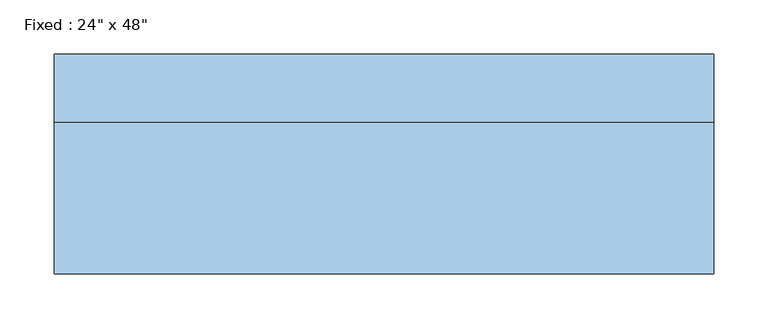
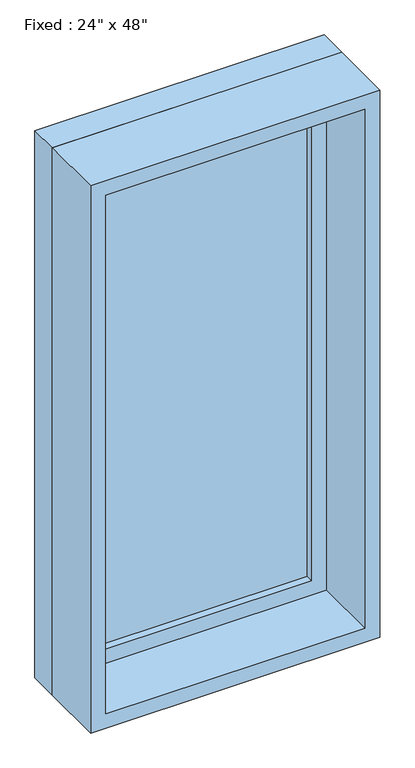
"""IFC4 building model written with IfcOpenShell, lengths in millimetres: window geometry."""

import ifcopenshell
import ifcopenshell.guid

model = None  # the IFC model being written
_history = None  # IfcOwnerHistory: only IFC2X3 demands one
_inside = {}  # id of a spatial element -> (the spatial element, [elements in it])
_under = {}  # id of a project, library or spatial element -> (it, [spatial elements below it])
_declared = {}  # id of a project -> (the project, [libraries it declares])
_typed = {}  # id of a type object -> (the type object, [elements of that type])
_made_of = {}  # id of a material, layer set ... -> (it, [elements and type objects made of it])


def new_model(schema):
    """Start an empty IFC model of exactly this schema.

    Asked for "IFC4X3", IfcOpenShell would pick the latest addendum, in which some entities
    have other attributes; the version numbers below select the first issue.
    IFC2X3 requires an IfcOwnerHistory on every rooted entity: one is made here for all.
    """
    global model, _history
    if schema == "IFC4X3":
        model = ifcopenshell.file(schema_version=(4, 3, 0, 0))
    else:
        model = ifcopenshell.file(schema=schema)
    _inside.clear()
    _under.clear()
    _declared.clear()
    _typed.clear()
    _made_of.clear()
    _history = None
    if model.schema == "IFC2X3":
        org = make("IfcOrganization", Name="unknown")
        user = make(
            "IfcPersonAndOrganization",
            ThePerson=make("IfcPerson", FamilyName="unknown"),
            TheOrganization=org,
        )
        app = make(
            "IfcApplication",
            ApplicationDeveloper=org,
            Version="unknown",
            ApplicationFullName="unknown",
            ApplicationIdentifier="unknown",
        )
        _history = make(
            "IfcOwnerHistory",
            OwningUser=user,
            OwningApplication=app,
            ChangeAction="ADDED",
            CreationDate=0,
        )
    return model


def make(cls, **values):
    """One entity of the class cls with the attributes given. An attribute that is None is left unset."""
    return model.create_entity(
        cls, **{name: value for name, value in values.items() if value is not None}
    )


def rooted(cls, **values):
    """An entity with a GlobalId (a new one), such as an element, a storey or a relation."""
    return make(cls, GlobalId=ifcopenshell.guid.new(), OwnerHistory=_history, **values)


def si_unit(unit_type, name, prefix=None):
    """IfcSIUnit, for example si_unit("LENGTHUNIT", "METRE", prefix="MILLI")."""
    return make("IfcSIUnit", UnitType=unit_type, Prefix=prefix, Name=name)


def assignment(units):
    """IfcUnitAssignment: the units of a project."""
    return None if units is None else make("IfcUnitAssignment", Units=units)


def point(xyz):
    """IfcCartesianPoint."""
    return None if xyz is None else make("IfcCartesianPoint", Coordinates=xyz)


def direction(xyz):
    """IfcDirection."""
    return None if xyz is None else make("IfcDirection", DirectionRatios=xyz)


def frame(location, z_axis=None, x_axis=None):
    """IfcAxis2Placement3D, a coordinate frame: its origin and axes. An axis left out is left unset."""
    return make(
        "IfcAxis2Placement3D",
        Location=point(location),
        Axis=direction(z_axis),
        RefDirection=direction(x_axis),
    )


def origin():
    """The frame at (0, 0, 0) with its axes left unset."""
    return frame((0.0, 0.0, 0.0))


def place(relative_to, where):
    """IfcLocalPlacement: puts the frame where relative to a parent placement (None: the world)."""
    return make(
        "IfcLocalPlacement", PlacementRelTo=relative_to, RelativePlacement=where
    )


def context(
    kind, dimensions, precision=None, world=None, true_north=None, identifier=None
):
    """IfcGeometricRepresentationContext, for example the 3D "Model" context."""
    return make(
        "IfcGeometricRepresentationContext",
        ContextIdentifier=identifier,
        ContextType=kind,
        CoordinateSpaceDimension=dimensions,
        Precision=precision,
        WorldCoordinateSystem=world,
        TrueNorth=true_north,
    )


def project(units=None, contexts=None):
    """IfcProject with its units and contexts."""
    return rooted(
        "IfcProject",
        Name="project",
        RepresentationContexts=contexts,
        UnitsInContext=assignment(units),
    )


def spatial(cls, under=None, at=None, **own):
    """A site, building, storey or space (cls), placed at a placement, below another one or the project."""
    s = rooted(cls, ObjectPlacement=at, **own)
    if under is not None:
        _under.setdefault(under.id(), (under, []))[1].append(s)
    return s


def polyline(points):
    """IfcPolyline through the points."""
    return make("IfcPolyline", Points=[point(p) for p in points])


def outline(outer, holes=None, kind="AREA"):
    """IfcArbitraryClosedProfileDef: a profile drawn as a closed curve; with holes, ...WithVoids."""
    if holes is None:
        return make("IfcArbitraryClosedProfileDef", ProfileType=kind, OuterCurve=outer)
    return make(
        "IfcArbitraryProfileDefWithVoids",
        ProfileType=kind,
        OuterCurve=outer,
        InnerCurves=holes,
    )


def extrude(swept, where, along, depth):
    """IfcExtrudedAreaSolid: the profile swept, set in the frame where, extruded along a direction by depth."""
    return make(
        "IfcExtrudedAreaSolid",
        SweptArea=swept,
        Position=where,
        ExtrudedDirection=direction(along),
        Depth=depth,
    )


def shape(context_of_items, identifier, shape_type, items):
    """IfcShapeRepresentation: the items that make up one representation, for example the "Body"."""
    return make(
        "IfcShapeRepresentation",
        ContextOfItems=context_of_items,
        RepresentationIdentifier=identifier,
        RepresentationType=shape_type,
        Items=items,
    )


def source(mapping_origin, context_of_items, identifier, shape_type, items):
    """IfcRepresentationMap: a shape defined once, which mapped items show again and again."""
    return make(
        "IfcRepresentationMap",
        MappingOrigin=mapping_origin,
        MappedRepresentation=shape(context_of_items, identifier, shape_type, items),
    )


def transform(
    local_origin,
    x_axis=None,
    y_axis=None,
    z_axis=None,
    scale=None,
    scale2=None,
    scale3=None,
    uniform=True,
):
    """IfcCartesianTransformationOperator3D, or its non-uniform kind. x_axis, y_axis, z_axis: its Axis1, 2, 3."""
    if uniform:
        return make(
            "IfcCartesianTransformationOperator3D",
            Axis1=direction(x_axis),
            Axis2=direction(y_axis),
            LocalOrigin=point(local_origin),
            Scale=scale,
            Axis3=direction(z_axis),
        )
    return make(
        "IfcCartesianTransformationOperator3DnonUniform",
        Axis1=direction(x_axis),
        Axis2=direction(y_axis),
        LocalOrigin=point(local_origin),
        Scale=scale,
        Axis3=direction(z_axis),
        Scale2=scale2,
        Scale3=scale3,
    )


def mapped(mapping_source, mapping_target):
    """IfcMappedItem: shows the shape of a source again, moved by a transform."""
    return make(
        "IfcMappedItem", MappingSource=mapping_source, MappingTarget=mapping_target
    )


def made_of(thing, what):
    """Note that an element or type object is made of a material, layer set ...; save() writes the relation."""
    if what is not None:
        _made_of.setdefault(what.id(), (what, []))[1].append(thing)
    return thing


def element(
    cls,
    number,
    at=None,
    inside=None,
    cuts=None,
    type_object=None,
    material=None,
    context=None,
    identifier="Body",
    shape_type=None,
    held_by="IfcProductDefinitionShape",
    body=None,
    shapes=None,
    **own,
):
    """One element of the class cls, such as IfcWall. Its Tag is "e" and its number.

    at: its placement. inside: the storey or other place that contains it. cuts: it is an
    opening in that element (IfcRelVoidsElement). A single representation is given by context,
    identifier, shape_type and body (its items); several are given by shapes. held_by: the class
    of the entity that holds the representations. save() writes the other relations.
    """
    e = rooted(cls, Tag="e%d" % number, ObjectPlacement=at, **own)
    if body is not None:
        shapes = [shape(context, identifier, shape_type, body)]
    if shapes is not None:
        e.Representation = make(held_by, Representations=shapes)
    if inside is not None:
        _inside.setdefault(inside.id(), (inside, []))[1].append(e)
    if cuts is not None:
        rooted(
            "IfcRelVoidsElement", RelatingBuildingElement=cuts, RelatedOpeningElement=e
        )
    if type_object is not None:
        _typed.setdefault(type_object.id(), (type_object, []))[1].append(e)
    return made_of(e, material)


def aggregate(whole, parts):
    """IfcRelAggregates: a whole, such as a stair, and the parts it consists of."""
    return rooted("IfcRelAggregates", RelatingObject=whole, RelatedObjects=parts)


def save(model, path):
    """Write the relations noted so far, then the file.

    IfcRelAggregates (storeys below a building ...), IfcRelContainedInSpatialStructure (elements
    in a storey), IfcRelDefinesByType, IfcRelAssociatesMaterial and IfcRelDeclares: one each for
    every whole, place, type object, material and project.
    """
    for whole, parts in _under.values():
        aggregate(whole, parts)
    for where, things in _inside.values():
        rooted(
            "IfcRelContainedInSpatialStructure",
            RelatedElements=things,
            RelatingStructure=where,
        )
    for kind, things in _typed.values():
        rooted("IfcRelDefinesByType", RelatedObjects=things, RelatingType=kind)
    for what, things in _made_of.values():
        rooted("IfcRelAssociatesMaterial", RelatedObjects=things, RelatingMaterial=what)
    for by, libraries in _declared.values():
        rooted("IfcRelDeclares", RelatingContext=by, RelatedDefinitions=libraries)
    model.write(path)


def window_80bd9af0(model_context):
    return source(origin(), model_context, "Body", "SweptSolid", [
        extrude(outline(polyline([(203.2, 53.975), (-279.4, 53.975), (-279.4, 66.675), (203.2, 66.675), (203.2, 53.975)])), frame((0.0, 0.0, 977.9), z_axis=(0.0, 0.0, 1.0), x_axis=(1.0, 0.0, 0.0)), (0.0, 0.0, 1.0), 1092.2),
        extrude(outline(polyline([(2114.55, -323.85), (933.45, -323.85), (933.45, 247.65), (2114.55, 247.65), (2114.55, -323.85)]), holes=[polyline([(2070.1, -279.4), (2070.1, 203.2), (977.9, 203.2), (977.9, -279.4), (2070.1, -279.4)])]), frame((0.0, 38.1, 0.0), z_axis=(0.0, 1.0, 0.0), x_axis=(0.0, 0.0, 1.0)), (0.0, 0.0, 1.0), 44.45),
        extrude(outline(polyline([(2133.6, -342.9), (914.4, -342.9), (914.4, 266.7), (2133.6, 266.7), (2133.6, -342.9)]), holes=[polyline([(2101.85, -311.15), (2101.85, 234.95), (946.15, 234.95), (946.15, -311.15), (2101.85, -311.15)])]), frame((0.0, -101.6, 0.0), z_axis=(0.0, 1.0, 0.0), x_axis=(0.0, 0.0, 1.0)), (0.0, 0.0, 1.0), 139.7),
        extrude(outline(polyline([(2133.6, 266.7), (2133.6, -342.9), (914.4, -342.9), (914.4, 266.7), (2133.6, 266.7)]), holes=[polyline([(2114.55, 247.65), (933.45, 247.65), (933.45, -323.85), (2114.55, -323.85), (2114.55, 247.65)])]), frame((0.0, 38.1, 0.0), z_axis=(0.0, 1.0, 0.0), x_axis=(0.0, 0.0, 1.0)), (0.0, 0.0, 1.0), 63.5),
    ])


if __name__ == "__main__":
    model = new_model("IFC4")
    model_context = context("Model", 3, world=origin())
    ifc_project = project(units=[si_unit("LENGTHUNIT", "METRE", prefix="MILLI")], contexts=[model_context])
    site = spatial("IfcSite", under=ifc_project)
    building = spatial("IfcBuilding", under=site)
    placement = place(None, origin())
    window_shape = window_80bd9af0(model_context)
    element("IfcWindow", 1, ObjectType="Fixed : 24\" x 48\"", at=placement, inside=building, context=model_context, shape_type="MappedRepresentation", body=[
        mapped(window_shape, transform((0.0, 0.0, 0.0), x_axis=(1.0, 0.0, 0.0), y_axis=(0.0, 1.0, 0.0), z_axis=(0.0, 0.0, 1.0))),
    ])
    save(model, "model.ifc")
